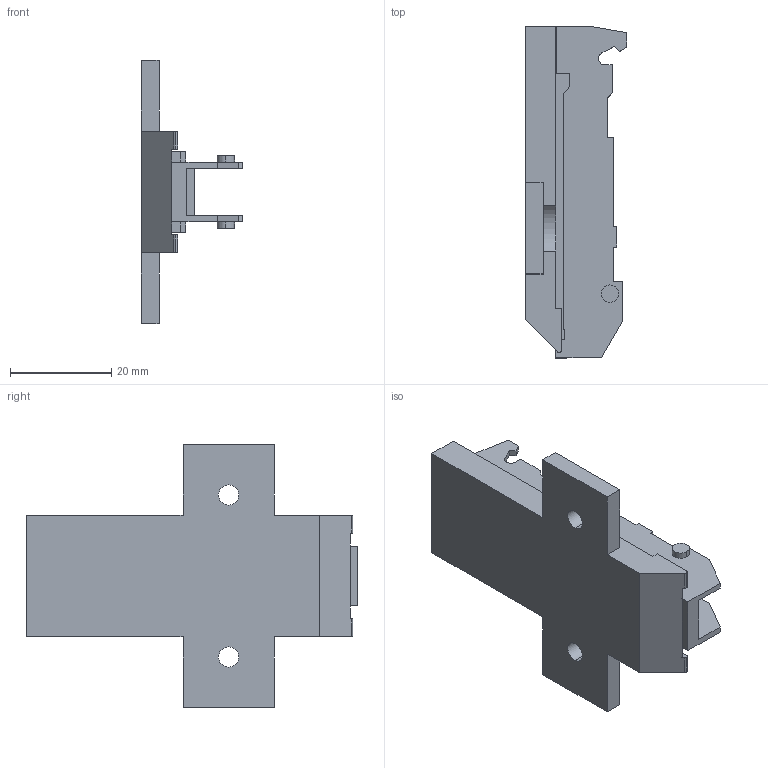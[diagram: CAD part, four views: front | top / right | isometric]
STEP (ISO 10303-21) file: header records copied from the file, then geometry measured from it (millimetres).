
FILE_DESCRIPTION (( 'STEP AP214' ), '1' );
FILE_NAME ('1D Kreuzmontageplatte_37_32_H9.5.STEP', '2011-08-18T14:09:40', ( '' ), ( '' ), 'SwSTEP 2.0', 'SolidWorks 2011', '' );
FILE_SCHEMA (( 'AUTOMOTIVE_DESIGN' ));
Length unit declared in the file: millimetre
Products named in the file (1): 1D Kreuzmontageplatte_37_32_H9.5
Bounding box: 20 x 65.55 x 52 mm (x, y, z)
Volume: 14703.4 mm3; surface area: 8345.1 mm2
Topology: 1 solids, 1 shells, 104 faces, 298 edges, 198 vertices
Faces by surface type: plane 88, cylinder 16
Entity records: 3400 total; most frequent: CARTESIAN_POINT 601, ORIENTED_EDGE 596, DIRECTION 540, EDGE_CURVE 298, LINE 266, VECTOR 266, VERTEX_POINT 198, AXIS2_PLACEMENT_3D 137
